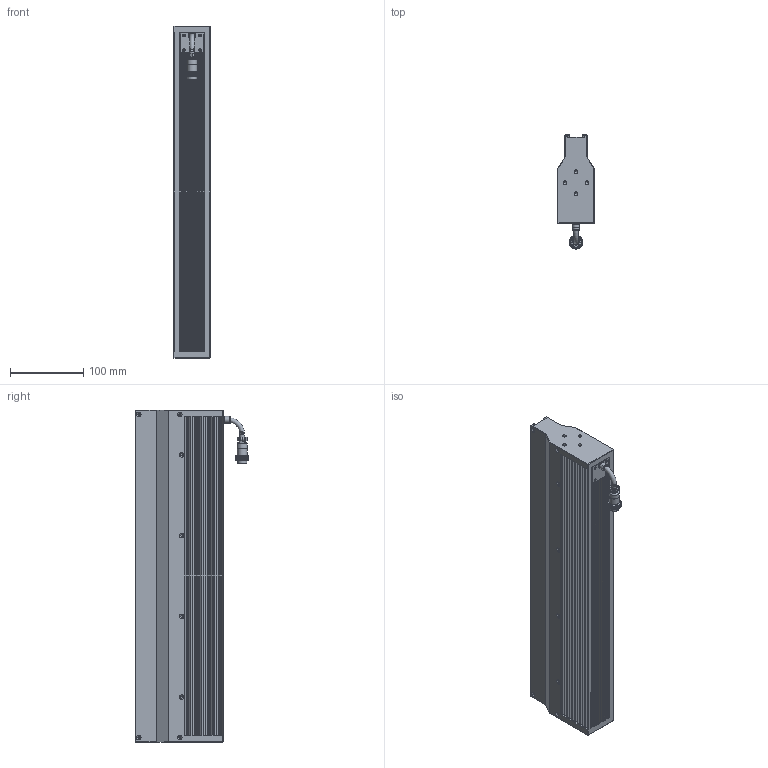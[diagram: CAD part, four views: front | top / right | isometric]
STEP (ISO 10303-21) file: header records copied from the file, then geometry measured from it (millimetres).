
FILE_DESCRIPTION (( 'STEP AP203' ), '1' );
FILE_NAME ('OPT-LSNL452-R-V1.1尨砩芞.STEP', '2025-02-18T01:12:23', ( '' ), ( '' ), 'SwSTEP 2.0', 'SolidWorks 2016', '' );
FILE_SCHEMA (( 'CONFIG_CONTROL_DESIGN' ));
Products named in the file (1): OPT-LSNL452-R-V1.1尨砩芞
Bounding box: 50.02 x 155.15 x 452 mm (x, y, z)
Volume: 1639305.7 mm3; surface area: 540316.4 mm2
Topology: 5 solids, 9 shells, 3601 faces, 8193 edges, 4622 vertices
Faces by surface type: bspline 2059, cylinder 756, plane 741, cone 37, torus 8
Full cylindrical faces by diameter (mm): 0.95 x6, 1.1 x2, 1.4 x2, 2 x4, 2.5 x8, 3 x12, 3.4 x16, 3.5 x4, 5 x8, 6.4 x3, 7.5 x1, 8.6 x1, 9.3 x1, 9.8 x1, 10 x1, 13.2 x1, 14 x1, 16.1 x1
Entity records: 125950 total; most frequent: CARTESIAN_POINT 64682, ORIENTED_EDGE 16034, EDGE_CURVE 8017, DIRECTION 5929, B_SPLINE_CURVE_WITH_KNOTS 5587, VERTEX_POINT 4568, EDGE_LOOP 3791, FACE_OUTER_BOUND 3682
